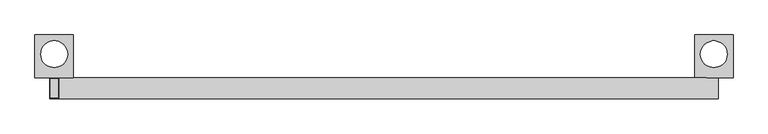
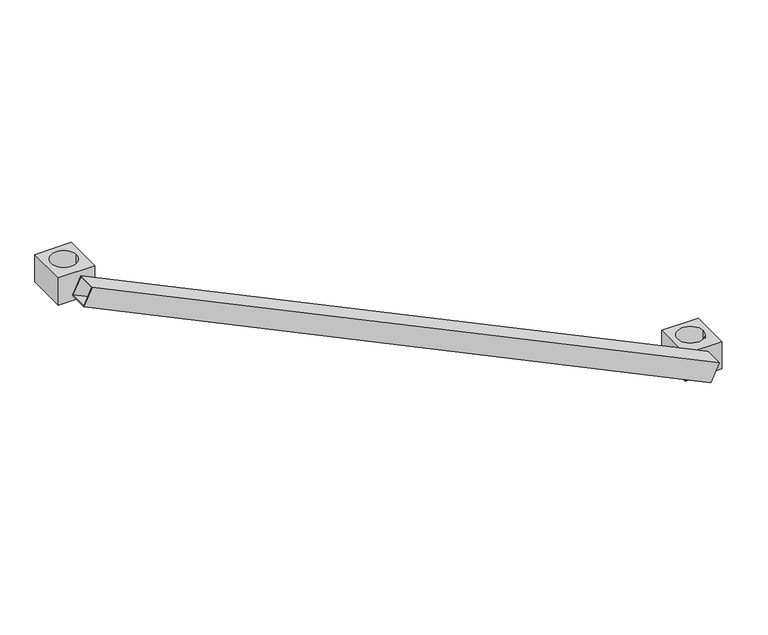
"""IFC4 building model written with IfcOpenShell, lengths in millimetres: proxy geometry, AK_アルバトロスAK伸縮斜材 : H0900×L1200."""

from ifc_helpers import new_model, si_unit, point, frame, frame_2d, origin, place, context, project, spatial, polyline, circle_curve, trimmed, segment, composite_curve, outline, extrude, source, transform, mapped, element, save


def generic_models_1a3c0f21(model_context):
    return source(origin(), model_context, "Body", "SweptSolid", [
        extrude(outline(polyline([(0.0, 0.0), (0.0, -38.0), (-37.9999999, -38.0), (-37.9999999, 0.0), (0.0, 0.0)]), holes=[polyline([(-1.9999999, -2.0), (-36.0, -2.0), (-36.0, -36.0), (-1.9999999, -36.0), (-1.9999999, -2.0)])]), frame((8.1928291, 19.0, 17.1428571), z_axis=(-0.9022556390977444, 0.0, 0.4312015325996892), x_axis=(0.4312015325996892, 0.0, 0.9022556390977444)), (0.0, 0.0, 1.0), 1330.0),
        extrude(outline(polyline([(35.0, 96.8842695), (35.0, 19.0), (-35.0, 19.0), (-35.0, 96.8842695), (35.0, 96.8842695)]), holes=[composite_curve([segment(trimmed(circle_curve(frame_2d((0.0, 61.8842695)), 24.3), [point((24.3, 61.8842695))], [point((-24.3, 61.8842695))], True, "CARTESIAN"), True, "CONTINUOUS"), segment(trimmed(circle_curve(frame_2d((0.0, 61.8842695)), 24.3), [point((-24.3, 61.8842695))], [point((24.3, 61.8842695))], True, "CARTESIAN"), True, "CONTINUOUS")], self_intersect=False)]), frame((0.0, 0.0, -27.7559086), z_axis=(0.0, 0.0, 1.0), x_axis=(1.0, 0.0, 0.0)), (0.0, 0.0, 1.0), 55.5118171),
        extrude(outline(polyline([(-1165.0, 19.0), (-1235.0, 19.0), (-1235.0, 96.8842695), (-1165.0, 96.8842695), (-1165.0, 19.0)]), holes=[composite_curve([segment(trimmed(circle_curve(frame_2d((-1200.0, 61.8842695)), 24.3), [point((-1175.7, 61.8842695))], [point((-1224.3, 61.8842695))], True, "CARTESIAN"), True, "CONTINUOUS"), segment(trimmed(circle_curve(frame_2d((-1200.0, 61.8842695)), 24.3), [point((-1224.3, 61.8842695))], [point((-1175.7, 61.8842695))], True, "CARTESIAN"), True, "CONTINUOUS")], self_intersect=False)]), frame((0.0, 0.0, 545.7421298), z_axis=(0.0, 0.0, 1.0), x_axis=(1.0, 0.0, 0.0)), (0.0, 0.0, 1.0), 55.5118171),
    ])


if __name__ == "__main__":
    model = new_model("IFC4")
    model_context = context("Model", 3, world=origin())
    ifc_project = project(units=[si_unit("LENGTHUNIT", "METRE", prefix="MILLI")], contexts=[model_context])
    site = spatial("IfcSite", under=ifc_project)
    building = spatial("IfcBuilding", under=site)
    placement = place(None, origin())
    generic_models_shape = generic_models_1a3c0f21(model_context)
    element("IfcBuildingElementProxy", 1, Name="AK_アルバトロスAK伸縮斜材 : H0900×L1200", ObjectType="AK_アルバトロスAK伸縮斜材 : H0900×L1200", at=placement, inside=building, context=model_context, shape_type="MappedRepresentation", body=[
        mapped(generic_models_shape, transform((0.0, 0.0, 0.0), x_axis=(1.0, 0.0, 0.0), y_axis=(0.0, 1.0, 0.0), z_axis=(0.0, 0.0, 1.0))),
    ])
    save(model, "model.ifc")
